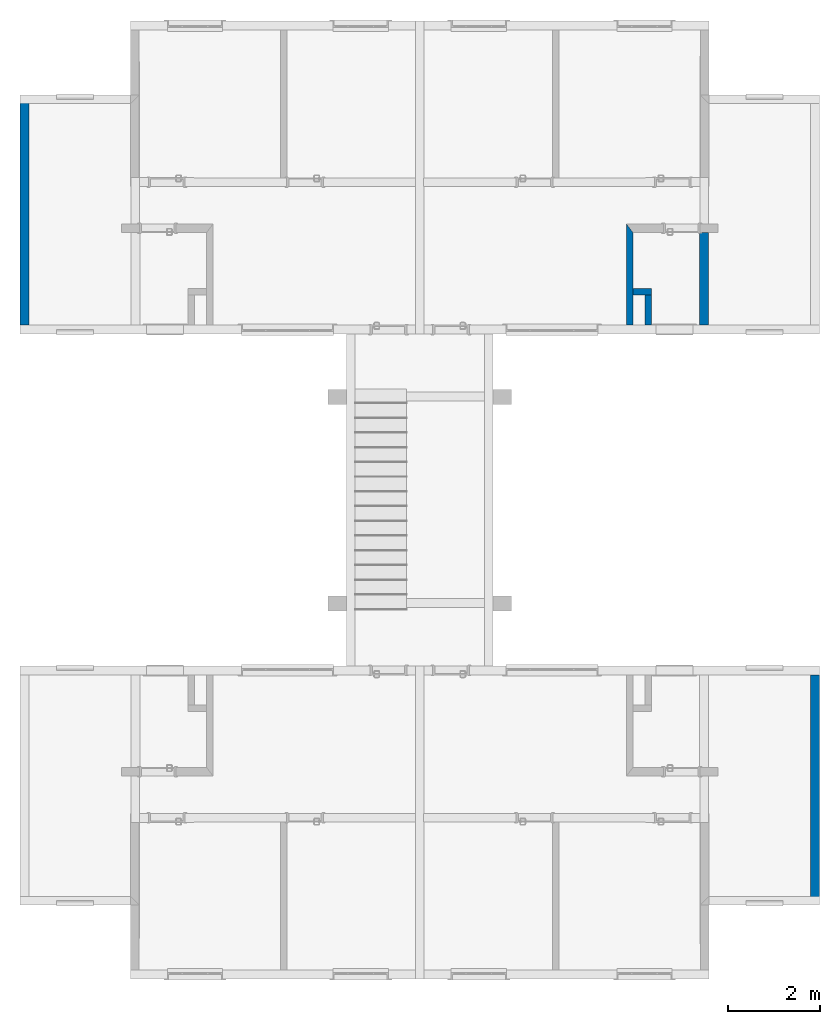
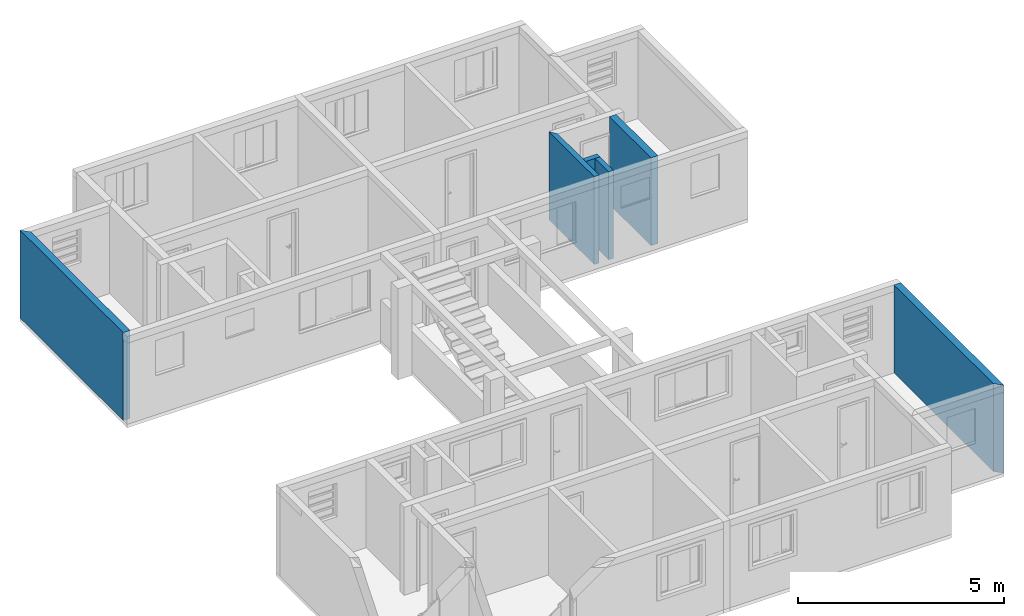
# One storey, part 30 of 43: 6 walls.
"""IFC2X3 building model written with IfcOpenShell, lengths in millimetres."""

from ifc_helpers import new_model, entity, si_unit, converted_unit, derived_unit, money_unit, direction, frame, origin_with_axes, place, context, subcontext, project, spatial, polyline, outline, extrude, material, layer, layer_set, layer_usage, type_object, element, save


model = new_model("IFC2X3")

# Units and contexts
model_context = context("Model", 3, precision=0.01, world=origin_with_axes(), true_north=direction((0.0, 1.0)))
body_context = subcontext(model_context, "Body", "Model", "MODEL_VIEW")
ifc_project = project(units=[si_unit("LENGTHUNIT", "METRE", prefix="MILLI"), si_unit("AREAUNIT", "SQUARE_METRE"), si_unit("VOLUMEUNIT", "CUBIC_METRE"), converted_unit("PLANEANGLEUNIT", "DEGREE", entity("IfcPlaneAngleMeasure", 0.0174532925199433), si_unit("PLANEANGLEUNIT", "RADIAN"), dimensions=[0, 0, 0, 0, 0, 0, 0]), money_unit("USD"), converted_unit("TIMEUNIT", "Year", entity("IfcTimeMeasure", 31557600.0), si_unit("TIMEUNIT", "SECOND"), dimensions=[0, 0, 1, 0, 0, 0, 0]), si_unit("MASSUNIT", "GRAM", prefix="KILO"), si_unit("THERMODYNAMICTEMPERATUREUNIT", "DEGREE_CELSIUS"), si_unit("LUMINOUSINTENSITYUNIT", "LUMEN"), si_unit("ENERGYUNIT", "JOULE", prefix="MEGA"), derived_unit("THERMALCONDUCTANCEUNIT", [(si_unit("POWERUNIT", "WATT"), 1), (si_unit("LENGTHUNIT", "METRE"), -1), (si_unit("THERMODYNAMICTEMPERATUREUNIT", "KELVIN"), -1)]), derived_unit("SPECIFICHEATCAPACITYUNIT", [(si_unit("ENERGYUNIT", "JOULE"), 1), (si_unit("MASSUNIT", "GRAM", prefix="KILO"), -1), (si_unit("THERMODYNAMICTEMPERATUREUNIT", "KELVIN"), -1)]), derived_unit("MASSDENSITYUNIT", [(si_unit("MASSUNIT", "GRAM", prefix="KILO"), 1), (si_unit("VOLUMEUNIT", "CUBIC_METRE"), -1)])], contexts=[model_context])

# Site, building, storey
site_placement = place(None, origin_with_axes())
site = spatial("IfcSite", under=ifc_project, at=site_placement, Name="Local", CompositionType="ELEMENT")
building_placement = place(site_placement, origin_with_axes())
building = spatial("IfcBuilding", under=site, at=building_placement, Name="Construção", CompositionType="ELEMENT")
storey_placement = place(building_placement, origin_with_axes())
storey = spatial("IfcBuildingStorey", under=building, at=storey_placement, Name="Pavimento Tipo", CompositionType="ELEMENT", Elevation=0.0)

# Walls
ifc_material_1 = material(Name="Concreto - Estrutural")
ifc_layer_1 = layer(ifc_material_1, 190.0, ventilated="UNKNOWN")
ifc_layer_set_1 = layer_set([ifc_layer_1], Name="Concreto - Estrutural 190")
ifc_layer_usage_1 = layer_usage(ifc_layer_set_1, "AXIS2", "NEGATIVE", 190.0)
wall_type_1 = type_object("IfcWallType", Name="Concreto - Estrutural 190", PredefinedType="NOTDEFINED")
wall_1_placement = place(storey_placement, frame((70064.64904613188, 5832.461520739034, 0.0), z_axis=(0.0, 0.0, 1.0), x_axis=(0.0, 1.0, 0.0)))
element("IfcWallStandardCase", 1, at=wall_1_placement, inside=storey, type_object=wall_type_1, material=ifc_layer_usage_1, Name="Apartamento 1 - Parede-009", context=body_context, shape_type="SweptSolid", body=[
    extrude(outline(polyline([(0.0, 0.0), (2010.0, 0.0), (2010.0, 189.9999999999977), (0.0, 189.9999999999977), (0.0, 0.0)])), origin_with_axes(), (0.0, 0.0, 1.0), 2600.0),
])
ifc_layer_usage_2 = layer_usage(ifc_layer_set_1, "AXIS2", "POSITIVE", 0.0)
wall_2_placement = place(storey_placement, frame((55307.434598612, 5832.461520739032, 0.0), z_axis=(0.0, 0.0, 1.0), x_axis=(0.0, 1.0, 0.0)))
element("IfcWallStandardCase", 2, at=wall_2_placement, inside=storey, type_object=wall_type_1, material=ifc_layer_usage_2, Name="Apartamento 2 - Parede-001", context=body_context, shape_type="SweptSolid", body=[
    extrude(outline(polyline([(0.0, 0.0), (4809.999999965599, 0.0), (4999.996384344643, 189.9999999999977), (0.0, 189.9999999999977), (0.0, 0.0)])), origin_with_axes(), (0.0, 0.0, 1.0), 2600.0),
])
ifc_layer_usage_3 = layer_usage(ifc_layer_set_1, "AXIS2", "POSITIVE", 0.0)
wall_3_placement = place(storey_placement, frame((72286.96486497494, -1757.538479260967, 0.0), z_axis=(0.0, 0.0, 1.0), x_axis=(0.0, -1.0, 0.0)))
element("IfcWallStandardCase", 3, at=wall_3_placement, inside=storey, type_object=wall_type_1, material=ifc_layer_usage_3, Name="Apartamento 4 - Parede-001", context=body_context, shape_type="SweptSolid", body=[
    extrude(outline(polyline([(0.0, 0.0), (4809.999999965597, 0.0), (4999.996384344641, 189.9999999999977), (0.0, 189.9999999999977), (0.0, 0.0)])), origin_with_axes(), (0.0, 0.0, 1.0), 2600.0),
])
ifc_material_2 = material(Name="Concreto")
ifc_layer_2 = layer(ifc_material_2, 140.0, ventilated="UNKNOWN")
ifc_layer_set_2 = layer_set([ifc_layer_2], Name="Concreto 140")
ifc_layer_usage_4 = layer_usage(ifc_layer_set_2, "AXIS2", "NEGATIVE", 0.0)
wall_type_2 = type_object("IfcWallType", Name="Concreto 140", PredefinedType="NOTDEFINED")
wall_4_placement = place(storey_placement, frame((68286.96486497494, 5832.461520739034, 0.0), z_axis=(0.0, 0.0, 1.0), x_axis=(0.0, 1.0, 0.0)))
element("IfcWallStandardCase", 4, at=wall_4_placement, inside=storey, type_object=wall_type_2, material=ifc_layer_usage_4, Name="Apartamento 1 - Parede-010", context=body_context, shape_type="SweptSolid", body=[
    extrude(outline(polyline([(0.0, -140.0000000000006), (2010.0, -140.0000000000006), (2199.999999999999, 0.0), (0.0, 0.0), (0.0, -140.0000000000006)])), origin_with_axes(), (0.0, 0.0, 1.0), 2600.0),
])
ifc_layer_usage_5 = layer_usage(ifc_layer_set_2, "AXIS2", "NEGATIVE", 0.0)
wall_5_placement = place(storey_placement, frame((68686.96486497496, 5832.461520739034, 0.0), z_axis=(0.0, 0.0, 1.0), x_axis=(0.0, 1.0, 0.0)))
element("IfcWallStandardCase", 5, at=wall_5_placement, inside=storey, type_object=wall_type_2, material=ifc_layer_usage_5, Name="Apartamento 1 - Parede-012", context=body_context, shape_type="SweptSolid", body=[
    extrude(outline(polyline([(0.0, -140.0000000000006), (660.0000000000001, -140.0000000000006), (660.0000000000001, 0.0), (0.0, 0.0), (0.0, -140.0000000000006)])), origin_with_axes(), (0.0, 0.0, 1.0), 2600.0),
])
ifc_layer_usage_6 = layer_usage(ifc_layer_set_2, "AXIS2", "NEGATIVE", 0.0)
wall_6_placement = place(storey_placement, frame((68826.96486497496, 6492.461520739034, 0.0), z_axis=(0.0, 0.0, 1.0), x_axis=(-1.0, 0.0, 0.0)))
element("IfcWallStandardCase", 6, at=wall_6_placement, inside=storey, type_object=wall_type_2, material=ifc_layer_usage_6, Name="Apartamento 1 - Parede-011", context=body_context, shape_type="SweptSolid", body=[
    extrude(outline(polyline([(0.0, -139.9999999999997), (400.0000000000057, -139.9999999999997), (400.0000000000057, 0.0), (0.0, 0.0), (0.0, -139.9999999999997)])), origin_with_axes(), (0.0, 0.0, 1.0), 2600.0),
])

save(model, "model.ifc")
